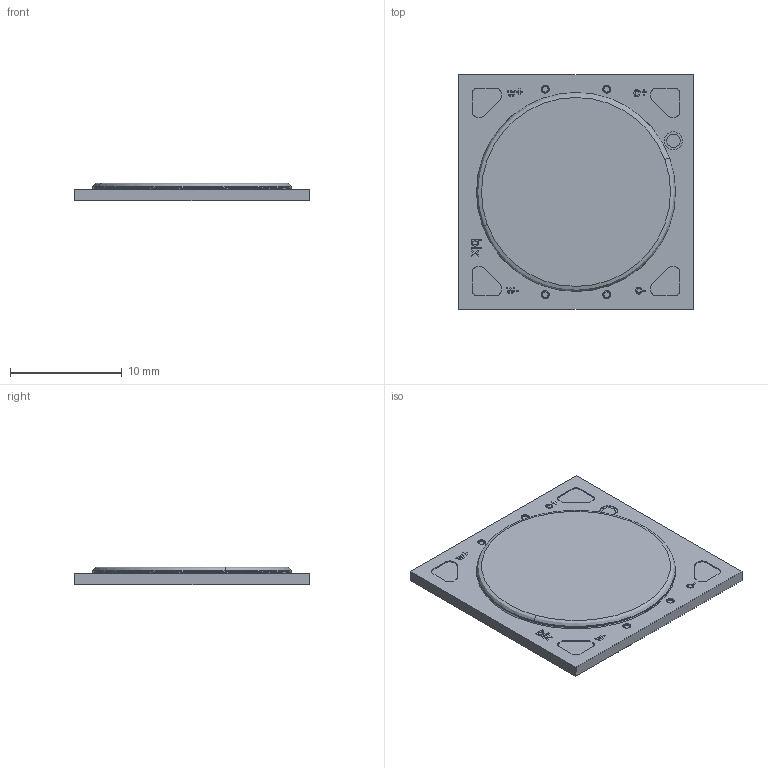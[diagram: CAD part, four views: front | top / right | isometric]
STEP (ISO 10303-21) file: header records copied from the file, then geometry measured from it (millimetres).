
FILE_DESCRIPTION (( 'STEP AP214' ), '1' );
FILE_NAME ('NTW15-GEN3 Assembly.STEP', '2025-01-09T01:59:12', ( '' ), ( '' ), 'SwSTEP 2.0', 'SolidWorks 2018', '' );
FILE_SCHEMA (( 'AUTOMOTIVE_DESIGN' ));
Length unit declared in the file: millimetre
Products named in the file (1): NTW15-GEN3 Assembly
Bounding box: 21 x 21 x 1.6 mm (x, y, z)
Volume: 585.1 mm3; surface area: 995.1 mm2
Topology: 1 solids, 1 shells, 195 faces, 494 edges, 328 vertices
Faces by surface type: plane 136, cylinder 43, bspline 10, torus 6
Entity records: 8137 total; most frequent: CARTESIAN_POINT 1264, ORIENTED_EDGE 988, DIRECTION 934, EDGE_CURVE 494, VECTOR 354, LINE 354, VERTEX_POINT 328, AXIS2_PLACEMENT_3D 290
